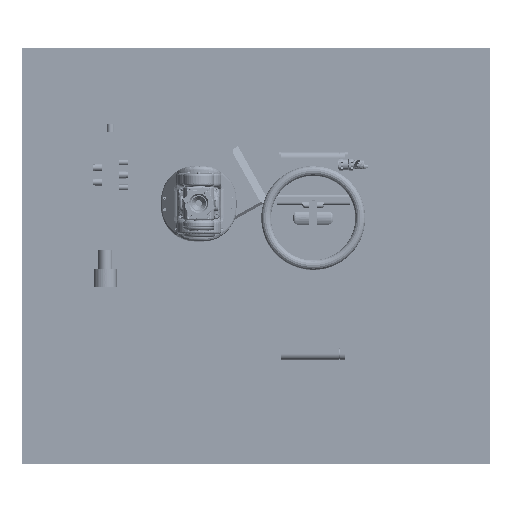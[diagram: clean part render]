
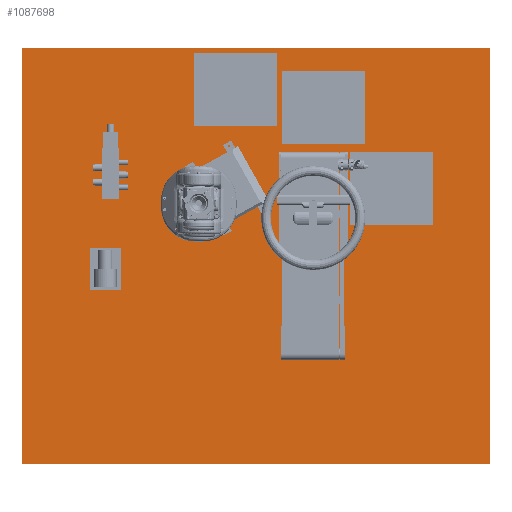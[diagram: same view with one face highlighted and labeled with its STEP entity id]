
A CAD part, top view. The second image highlights one B-rep face of the part: STEP entity #1087698.
In plain terms, the highlighted planar face has unit normal (0, 0, 1).
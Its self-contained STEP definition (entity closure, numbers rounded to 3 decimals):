
#1087384 = VERTEX_POINT('',#1087385);
#1087385 = CARTESIAN_POINT('',(-340.,-500.,-43.));
#1087392 = PLANE('',#1087393);
#1087393 = AXIS2_PLACEMENT_3D('',#1087394,#1087395,#1087396);
#1087394 = CARTESIAN_POINT('',(-340.,-500.,-53.));
#1087395 = DIRECTION('',(1.,0.,-0.));
#1087396 = DIRECTION('',(0.,0.,1.));
#1087404 = PLANE('',#1087405);
#1087405 = AXIS2_PLACEMENT_3D('',#1087406,#1087407,#1087408);
#1087406 = CARTESIAN_POINT('',(-340.,-500.,-53.));
#1087407 = DIRECTION('',(-0.,1.,0.));
#1087408 = DIRECTION('',(0.,0.,1.));
#1087445 = VERTEX_POINT('',#1087446);
#1087446 = CARTESIAN_POINT('',(-340.,300.,-43.));
#1087460 = PLANE('',#1087461);
#1087461 = AXIS2_PLACEMENT_3D('',#1087462,#1087463,#1087464);
#1087462 = CARTESIAN_POINT('',(-340.,300.,-53.));
#1087463 = DIRECTION('',(-0.,1.,0.));
#1087464 = DIRECTION('',(0.,0.,1.));
#1087472 = EDGE_CURVE('',#1087384,#1087445,#1087473,.T.);
#1087473 = SURFACE_CURVE('',#1087474,(#1087478,#1087485),.PCURVE_S1.);
#1087474 = LINE('',#1087475,#1087476);
#1087475 = CARTESIAN_POINT('',(-340.,-500.,-43.));
#1087476 = VECTOR('',#1087477,1.);
#1087477 = DIRECTION('',(-0.,1.,0.));
#1087478 = PCURVE('',#1087392,#1087479);
#1087479 = DEFINITIONAL_REPRESENTATION('',(#1087480),#1087484);
#1087480 = LINE('',#1087481,#1087482);
#1087481 = CARTESIAN_POINT('',(10.,0.));
#1087482 = VECTOR('',#1087483,1.);
#1087483 = DIRECTION('',(0.,-1.));
#1087484 = ( GEOMETRIC_REPRESENTATION_CONTEXT(2) 
PARAMETRIC_REPRESENTATION_CONTEXT() REPRESENTATION_CONTEXT('2D SPACE',''
  ) );
#1087485 = PCURVE('',#1087486,#1087491);
#1087486 = PLANE('',#1087487);
#1087487 = AXIS2_PLACEMENT_3D('',#1087488,#1087489,#1087490);
#1087488 = CARTESIAN_POINT('',(-340.,-500.,-43.));
#1087489 = DIRECTION('',(0.,0.,1.));
#1087490 = DIRECTION('',(1.,0.,-0.));
#1087491 = DEFINITIONAL_REPRESENTATION('',(#1087492),#1087496);
#1087492 = LINE('',#1087493,#1087494);
#1087493 = CARTESIAN_POINT('',(0.,0.));
#1087494 = VECTOR('',#1087495,1.);
#1087495 = DIRECTION('',(0.,1.));
#1087496 = ( GEOMETRIC_REPRESENTATION_CONTEXT(2) 
PARAMETRIC_REPRESENTATION_CONTEXT() REPRESENTATION_CONTEXT('2D SPACE',''
  ) );
#1087504 = VERTEX_POINT('',#1087505);
#1087505 = CARTESIAN_POINT('',(560.,-500.,-43.));
#1087512 = PLANE('',#1087513);
#1087513 = AXIS2_PLACEMENT_3D('',#1087514,#1087515,#1087516);
#1087514 = CARTESIAN_POINT('',(560.,-500.,-53.));
#1087515 = DIRECTION('',(1.,0.,-0.));
#1087516 = DIRECTION('',(0.,0.,1.));
#1087555 = VERTEX_POINT('',#1087556);
#1087556 = CARTESIAN_POINT('',(560.,300.,-43.));
#1087577 = EDGE_CURVE('',#1087504,#1087555,#1087578,.T.);
#1087578 = SURFACE_CURVE('',#1087579,(#1087583,#1087590),.PCURVE_S1.);
#1087579 = LINE('',#1087580,#1087581);
#1087580 = CARTESIAN_POINT('',(560.,-500.,-43.));
#1087581 = VECTOR('',#1087582,1.);
#1087582 = DIRECTION('',(-0.,1.,0.));
#1087583 = PCURVE('',#1087512,#1087584);
#1087584 = DEFINITIONAL_REPRESENTATION('',(#1087585),#1087589);
#1087585 = LINE('',#1087586,#1087587);
#1087586 = CARTESIAN_POINT('',(10.,0.));
#1087587 = VECTOR('',#1087588,1.);
#1087588 = DIRECTION('',(0.,-1.));
#1087589 = ( GEOMETRIC_REPRESENTATION_CONTEXT(2) 
PARAMETRIC_REPRESENTATION_CONTEXT() REPRESENTATION_CONTEXT('2D SPACE',''
  ) );
#1087590 = PCURVE('',#1087486,#1087591);
#1087591 = DEFINITIONAL_REPRESENTATION('',(#1087592),#1087596);
#1087592 = LINE('',#1087593,#1087594);
#1087593 = CARTESIAN_POINT('',(900.,0.));
#1087594 = VECTOR('',#1087595,1.);
#1087595 = DIRECTION('',(0.,1.));
#1087596 = ( GEOMETRIC_REPRESENTATION_CONTEXT(2) 
PARAMETRIC_REPRESENTATION_CONTEXT() REPRESENTATION_CONTEXT('2D SPACE',''
  ) );
#1087623 = EDGE_CURVE('',#1087384,#1087504,#1087624,.T.);
#1087624 = SURFACE_CURVE('',#1087625,(#1087629,#1087636),.PCURVE_S1.);
#1087625 = LINE('',#1087626,#1087627);
#1087626 = CARTESIAN_POINT('',(-340.,-500.,-43.));
#1087627 = VECTOR('',#1087628,1.);
#1087628 = DIRECTION('',(1.,0.,-0.));
#1087629 = PCURVE('',#1087404,#1087630);
#1087630 = DEFINITIONAL_REPRESENTATION('',(#1087631),#1087635);
#1087631 = LINE('',#1087632,#1087633);
#1087632 = CARTESIAN_POINT('',(10.,0.));
#1087633 = VECTOR('',#1087634,1.);
#1087634 = DIRECTION('',(0.,1.));
#1087635 = ( GEOMETRIC_REPRESENTATION_CONTEXT(2) 
PARAMETRIC_REPRESENTATION_CONTEXT() REPRESENTATION_CONTEXT('2D SPACE',''
  ) );
#1087636 = PCURVE('',#1087486,#1087637);
#1087637 = DEFINITIONAL_REPRESENTATION('',(#1087638),#1087642);
#1087638 = LINE('',#1087639,#1087640);
#1087639 = CARTESIAN_POINT('',(0.,0.));
#1087640 = VECTOR('',#1087641,1.);
#1087641 = DIRECTION('',(1.,0.));
#1087642 = ( GEOMETRIC_REPRESENTATION_CONTEXT(2) 
PARAMETRIC_REPRESENTATION_CONTEXT() REPRESENTATION_CONTEXT('2D SPACE',''
  ) );
#1087670 = EDGE_CURVE('',#1087445,#1087555,#1087671,.T.);
#1087671 = SURFACE_CURVE('',#1087672,(#1087676,#1087683),.PCURVE_S1.);
#1087672 = LINE('',#1087673,#1087674);
#1087673 = CARTESIAN_POINT('',(-340.,300.,-43.));
#1087674 = VECTOR('',#1087675,1.);
#1087675 = DIRECTION('',(1.,0.,-0.));
#1087676 = PCURVE('',#1087460,#1087677);
#1087677 = DEFINITIONAL_REPRESENTATION('',(#1087678),#1087682);
#1087678 = LINE('',#1087679,#1087680);
#1087679 = CARTESIAN_POINT('',(10.,0.));
#1087680 = VECTOR('',#1087681,1.);
#1087681 = DIRECTION('',(0.,1.));
#1087682 = ( GEOMETRIC_REPRESENTATION_CONTEXT(2) 
PARAMETRIC_REPRESENTATION_CONTEXT() REPRESENTATION_CONTEXT('2D SPACE',''
  ) );
#1087683 = PCURVE('',#1087486,#1087684);
#1087684 = DEFINITIONAL_REPRESENTATION('',(#1087685),#1087689);
#1087685 = LINE('',#1087686,#1087687);
#1087686 = CARTESIAN_POINT('',(0.,800.));
#1087687 = VECTOR('',#1087688,1.);
#1087688 = DIRECTION('',(1.,0.));
#1087689 = ( GEOMETRIC_REPRESENTATION_CONTEXT(2) 
PARAMETRIC_REPRESENTATION_CONTEXT() REPRESENTATION_CONTEXT('2D SPACE',''
  ) );
#1087698 = ADVANCED_FACE('',(#1087699),#1087486,.T.);
#1087699 = FACE_BOUND('',#1087700,.T.);
#1087700 = EDGE_LOOP('',(#1087701,#1087702,#1087703,#1087704));
#1087701 = ORIENTED_EDGE('',*,*,#1087472,.F.);
#1087702 = ORIENTED_EDGE('',*,*,#1087623,.T.);
#1087703 = ORIENTED_EDGE('',*,*,#1087577,.T.);
#1087704 = ORIENTED_EDGE('',*,*,#1087670,.F.);
